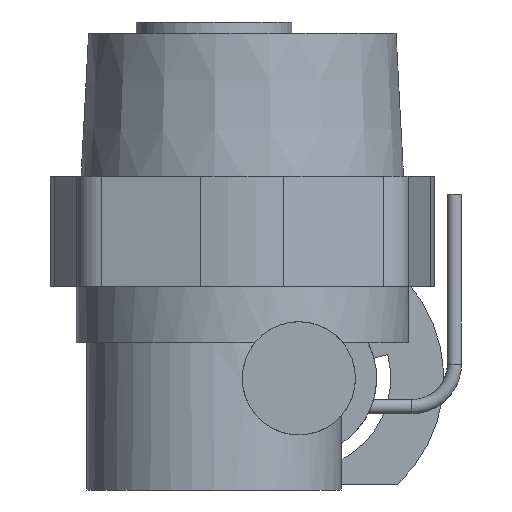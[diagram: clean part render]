
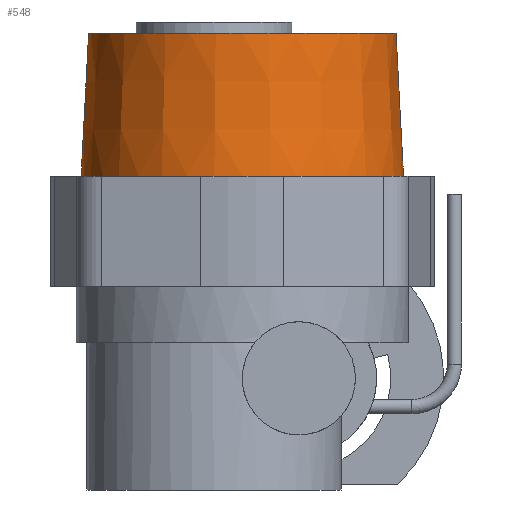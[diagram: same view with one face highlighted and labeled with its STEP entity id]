
A CAD part, front view. The second image highlights one B-rep face of the part: STEP entity #548.
In plain terms, the highlighted conical face has half-angle 3 degrees and reference radius 111.353 mm.
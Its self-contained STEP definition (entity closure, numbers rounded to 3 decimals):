
#548=ADVANCED_FACE('',(#1301,#1303),#1305,.T.);
#1301=FACE_OUTER_BOUND('',#1302,.T.);
#1302=EDGE_LOOP('',(#1787));
#1303=FACE_OUTER_BOUND('',#1304,.T.);
#1304=EDGE_LOOP('',(#1788));
#1305=CONICAL_SURFACE('',#1306,111.353,0.052);
#1306=AXIS2_PLACEMENT_3D('',#1307,#1308,#1309);
#1307=CARTESIAN_POINT('',(0.,0.,128.5));
#1308=DIRECTION('',(-0.,-0.,-1.));
#1309=DIRECTION('',(1.,0.,-0.));
#1787=ORIENTED_EDGE('',*,*,#2028,.F.);
#1788=ORIENTED_EDGE('',*,*,#2026,.T.);
#2026=EDGE_CURVE('',#2277,#2277,#2278,.T.);
#2028=EDGE_CURVE('',#2281,#2281,#2282,.T.);
#2277=VERTEX_POINT('',#3408);
#2278=CIRCLE('',#3409,114.);
#2281=VERTEX_POINT('',#3418);
#2282=CIRCLE('',#3419,108.707);
#3408=CARTESIAN_POINT('',(-114.,0.,78.));
#3409=AXIS2_PLACEMENT_3D('',#3410,#3411,#3412);
#3410=CARTESIAN_POINT('',(0.,0.,78.));
#3411=DIRECTION('',(0.,0.,1.));
#3412=DIRECTION('',(-1.,0.,0.));
#3418=CARTESIAN_POINT('',(-108.707,0.,179.));
#3419=AXIS2_PLACEMENT_3D('',#3420,#3421,#3422);
#3420=CARTESIAN_POINT('',(0.,0.,179.));
#3421=DIRECTION('',(0.,0.,1.));
#3422=DIRECTION('',(-1.,0.,0.));
